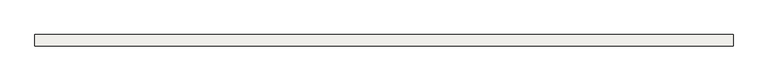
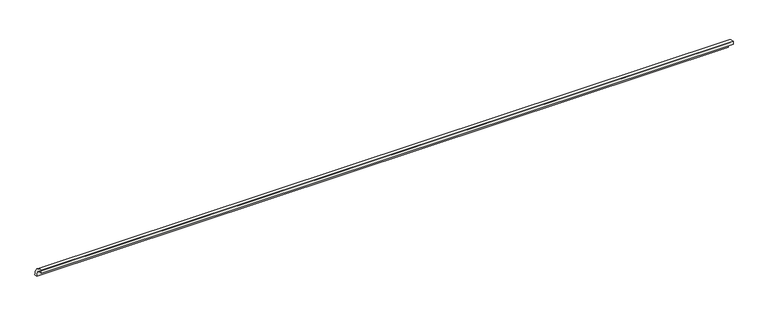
"""IFC4 building model written with IfcOpenShell, lengths in millimetres: slab geometry, ROSA GRES_138 : Pieza 138_Aqua_Plomo_Anti-Slip."""

from ifc_helpers import new_model, si_unit, point, frame, frame_2d, origin, origin_2d, place, context, project, spatial, polyline, circle_curve, trimmed, segment, composite_curve, outline, extrude, source, transform, mapped, element, save


def slab_c8dc17a9(model_context):
    return source(origin(), model_context, "Body", "SweptSolid", [
        extrude(outline(composite_curve([segment(trimmed(circle_curve(origin_2d(), 40.0), [point((0.0, 40.0))], [point((40.0, 0.0))], False, "CARTESIAN"), True, "CONTINUOUS"), segment(polyline([(40.0, 0.0), (30.0265886, 0.0)]), True, "CONTINUOUS"), segment(trimmed(circle_curve(frame_2d((0.0044453, 0.0044453)), 30.0221435), [point((30.0265886, 0.0))], [point((0.0, 30.0265886))], True, "CARTESIAN"), True, "CONTINUOUS"), segment(polyline([(0.0, 30.0265886), (0.0, 40.0)]), True, "CONTINUOUS")], self_intersect=False)), frame((0.0, 0.0, 0.0), z_axis=(1.0, 0.0, 0.0), x_axis=(0.0, 1.0, 0.0)), (0.0, 0.0, 1.0), 2460.0),
    ])


if __name__ == "__main__":
    model = new_model("IFC4")
    model_context = context("Model", 3, world=origin())
    ifc_project = project(units=[si_unit("LENGTHUNIT", "METRE", prefix="MILLI")], contexts=[model_context])
    site = spatial("IfcSite", under=ifc_project)
    building = spatial("IfcBuilding", under=site)
    placement = place(None, origin())
    slab_shape = slab_c8dc17a9(model_context)
    element("IfcSlab", 1, ObjectType="ROSA GRES_138 : Pieza 138_Aqua_Plomo_Anti-Slip", at=placement, inside=building, context=model_context, shape_type="MappedRepresentation", body=[
        mapped(slab_shape, transform((0.0, 0.0, 0.0), x_axis=(1.0, 0.0, 0.0), y_axis=(0.0, 1.0, 0.0), z_axis=(0.0, 0.0, 1.0))),
    ])
    save(model, "model.ifc")
